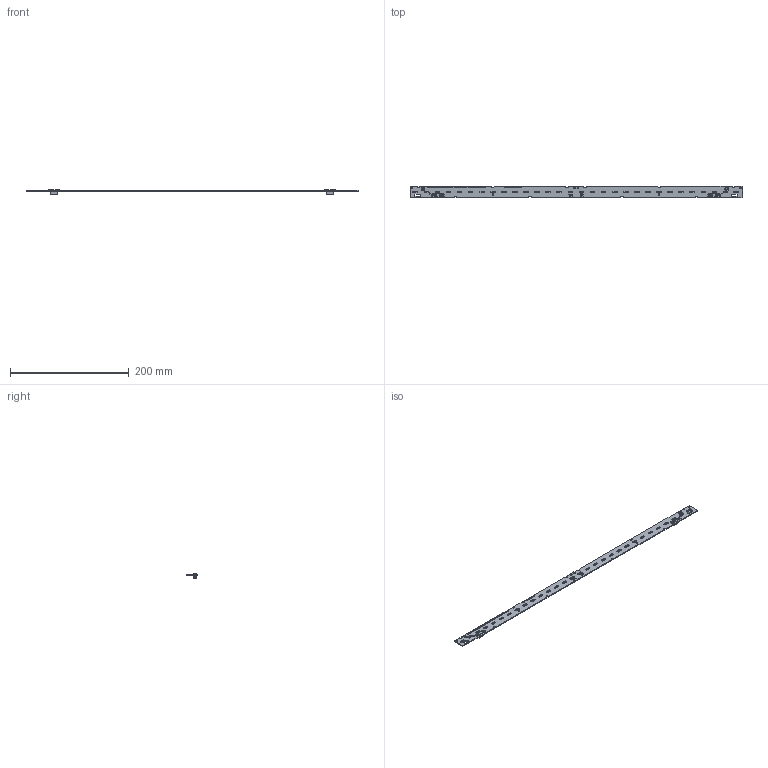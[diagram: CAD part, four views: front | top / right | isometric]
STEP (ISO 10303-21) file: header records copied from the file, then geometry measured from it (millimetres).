
FILE_DESCRIPTION(('Creo Elements/Direct Modeling STEP Export'),'2;1');
FILE_NAME('3D-Model_WU-M-719-BC.stp','2024-10-23T11:33:06',(''),(''),'PTC Creo Elements/Direct Modeling STEP processor for AP214 (Solid Model)','PTC Creo Elements/Direct Modeling 19.0E 27-Jun-2016 (C) Parametric Technology GmbH','');
FILE_SCHEMA(('AUTOMOTIVE_DESIGN { 1 0 10303 214 1 1 1 1 }'));
Length unit declared in the file: millimetre
Products named in the file (157): 2835PCT_3D_MODEL_STEP_1__1_.PRT; 2835PCT_3D_MODEL_STEP_1__2_.PRT; 2835PCT_3D_MODEL_STEP_1__1_.PRT.2.1.1.1.2; 2835PCT_3D_MODEL_STEP_1__1_.PRT.1.1.1.1.1.2; 2835PCT_3D_MODEL_STEP_1__1_.PRT.1.1.1; 2835PCT_3D_MODEL_STEP_1__1_.PRT.2.1.2.1.2; 2835PCT_3D_MODEL_STEP_1__1_.PRT.1.1.1.4.1.2; 2835PCT_3D_MODEL_STEP_1__1_.PRT.1.1.1.2.1.2; 2835PCT_3D_MODEL_STEP_1__1_.PRT.2.1; 2835PCT_3D_MODEL_STEP_1__1_.PRT.1.1.1.3; 2835PCT_3D_MODEL_STEP_1__2_.PRT.1.1.1.1.1.2; 2835PCT_3D_MODEL_STEP_1__2_.PRT.2.1.1.1.2; 2835PCT_3D_MODEL_STEP_1__2_.PRT.1.1.1; 2835PCT_3D_MODEL_STEP_1__2_.PRT.1.1.1.3; 2835PCT_3D_MODEL_STEP_1__2_.PRT.1.1.1.2.1.2; 2835PCT_3D_MODEL_STEP_1__1_.PRT.2.1.3; 2835PCT_3D_MODEL_STEP_1__1_.PRT.2.1.4.1.2; 2835PCT_3D_MODEL_STEP_1__2_.PRT.1.1.1.4.1.2; 2835PCT_3D_MODEL_STEP_1__2_.PRT.2.1; 2835PCT_3D_MODEL_STEP_1__2_.PRT.2.1.4.1.2; 2835PCT_3D_MODEL_STEP_1__2_.PRT.2.1.3; 2835PCT_3D_MODEL_STEP_1__2_.PRT.2.1.2.1.2; _____STEP.PRT.2.1.1.1.2; _____-0_STEP.PRT.1.1.1.1.1.2; _____STEP.PRT.5; _____-0_STEP.PRT.1.1.1.2.1.2; _____-0_STEP.PRT.5; _____-0_STEP.PRT.2.1; _____-0_STEP.PRT.1.1.1.4.1.2; _____-0_STEP.PRT.2.1.1.1.2; _____-0_STEP.PRT.1.1.1.3; _____-0_STEP.PRT.1.1.1; _____STEP.PRT.1.1.1.4.1.2; _____-0_STEP.PRT.2.1.4.1.2; _____STEP.PRT.1.1.1.1.1.2; _____STEP.PRT.1.1.1; _____-0_STEP.PRT.2.1.3; _____-0_STEP.PRT.2.1.2.1.2; _____STEP.PRT.2.1.4.1.2; _____STEP.PRT.2.1.2.1.2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
Assembly tree (422 placements, depth 6):
  Diode
    J_SERIES_2835.STEP
      2835PCT_3D_MODEL_ORIGIN_CORRECT.ASM
        2835PCT_3D_MODEL_STEP.ASM
          ______STEP.ASM
            2835PCT_3D_MODEL_STEP_1__2_.PRT
            2835PCT_3D_MODEL_STEP_1__1_.PRT
          _____-0_STEP.PRT.5
          _____STEP.PRT.5
    _____-0_STEP.PRT.5  x49
    _____STEP.PRT.5  x49
    _____-0_STEP.PRT.2.1.2.1.2  x4
    _____STEP.PRT.1.1.1.2.1.2  x4
    _____STEP.PRT.1.1.1.3
    _____STEP.PRT.1.1.1.4.1.2  x4
    _____STEP.PRT.1.1.1.1.1.2  x4
    _____STEP.PRT.2.1.4.1.2  x4
    _____STEP.PRT.2.1.3
    _____STEP.PRT.2.1.2.1.2  x4
    _____STEP.PRT.2.1.1.1.2  x4
    _____STEP.PRT.2.1
    _____-0_STEP.PRT.2.1.4.1.2  x4
    _____-0_STEP.PRT.2.1.3
    _____STEP.PRT.1.1.1
    _____-0_STEP.PRT.2.1.1.1.2  x4
    _____-0_STEP.PRT.1.1.1.4.1.2  x4
    _____-0_STEP.PRT.1.1.1
    _____-0_STEP.PRT.1.1.1.3
    _____-0_STEP.PRT.1.1.1.1.1.2  x4
    _____-0_STEP.PRT.1.1.1.2.1.2  x4
    _____-0_STEP.PRT.2.1
    2835PCT_3D_MODEL_STEP_1__2_.PRT.2.1.2.1.2  x4
    2835PCT_3D_MODEL_STEP_1__2_.PRT  x49
    2835PCT_3D_MODEL_STEP_1__2_.PRT.2.1.4.1.2  x4
    2835PCT_3D_MODEL_STEP_1__2_.PRT.2.1.3
    2835PCT_3D_MODEL_STEP_1__1_.PRT  x49
    2835PCT_3D_MODEL_STEP_1__2_.PRT.2.1.1.1.2  x4
    2835PCT_3D_MODEL_STEP_1__2_.PRT.1.1.1.4.1.2  x4
    2835PCT_3D_MODEL_STEP_1__2_.PRT.1.1.1.1.1.2  x4
    2835PCT_3D_MODEL_STEP_1__2_.PRT.1.1.1.2.1.2  x4
    2835PCT_3D_MODEL_STEP_1__1_.PRT.2.1.4.1.2  x4
    2835PCT_3D_MODEL_STEP_1__2_.PRT.2.1
    2835PCT_3D_MODEL_STEP_1__1_.PRT.2.1.2.1.2  x4
    2835PCT_3D_MODEL_STEP_1__1_.PRT.2.1.3
    2835PCT_3D_MODEL_STEP_1__2_.PRT.1.1.1.3
    2835PCT_3D_MODEL_STEP_1__2_.PRT.1.1.1
    2835PCT_3D_MODEL_STEP_1__1_.PRT.1.1.1.2.1.2  x4
    2835PCT_3D_MODEL_STEP_1__1_.PRT.1.1.1.1.1.2  x4
    2835PCT_3D_MODEL_STEP_1__1_.PRT.1.1.1.3
    2835PCT_3D_MODEL_STEP_1__1_.PRT.2.1.1.1.2  x4
    2835PCT_3D_MODEL_STEP_1__1_.PRT.1.1.1.4.1.2  x4
    2835PCT_3D_MODEL_STEP_1__1_.PRT.2.1
    2835PCT_3D_MODEL_STEP_1__1_.PRT.1.1.1
  Cone
    2070_461_998_406.PRT  x2
  3D_Plate-WU-M-719
    3D_Plate-WU-M-719
  3D-Text_workplane
    3D_Plate-with-text_WU-M-719.84
    3D_Plate-with-text_WU-M-719.79
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Bounding box: 559 x 20 x 7.45 mm (x, y, z)
Volume: 18336.4 mm3; surface area: 30201.9 mm2
Topology: 418 solids, 418 shells, 16204 faces, 45224 edges, 29764 vertices
Faces by surface type: plane 12056, cylinder 4136, cone 12
Entity records: 182898 total; most frequent: CARTESIAN_POINT 25206, ORIENTED_EDGE 24542, DIRECTION 24232, EDGE_CURVE 12271, VECTOR 9934, LINE 9934, VERTEX_POINT 8120, AXIS2_PLACEMENT_3D 7149
